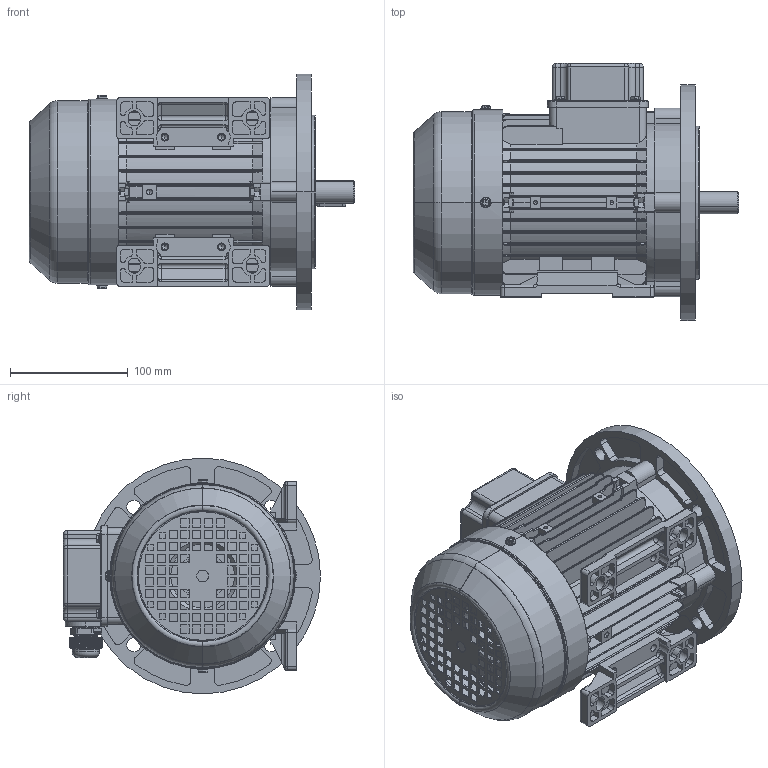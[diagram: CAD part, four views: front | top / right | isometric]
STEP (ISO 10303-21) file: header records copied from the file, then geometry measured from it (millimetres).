
FILE_DESCRIPTION (( 'STEP AP203' ), '1' );
FILE_NAME ('MSL80 assembly B35.STEP', '2017-11-26T09:41:45', ( 'user' ), ( 'china' ), 'SwSTEP 2.0', 'SolidWorks 2016', '' );
FILE_SCHEMA (( 'CONFIG_CONTROL_DESIGN' ));
Length unit declared in the file: millimetre
Products named in the file (14): MSL80-90堤盄碟_MSL80-90; M20 cable gland; MSL80 assembly B35; GB-T 5780-2000 M5_020; M80瑞欶_076; M80菁褐; GB-T 70.1-2000 M5_20; GB-T 29.2-1988 M4鞠褒坋趼湍菜_05; M80傷裔B5; MS80 綴裔瑞欶郪磁; M80-Shaft drive end; MSL80-儂褲; MSL80-90堤盄碟蚾饜; M80傷裔B3_Post
Assembly tree (26 placements, depth 3):
  MSL80 assembly B35
    MSL80-儂褲
    MS80 綴裔瑞欶郪磁
      M80傷裔B3_Post
      M80瑞欶_076
      GB-T 29.2-1988 M4鞠褒坋趼湍菜_05  x3
    MSL80-90堤盄碟蚾饜
      MSL80-90堤盄碟_MSL80-90
      GB-T 29.2-1988 M4鞠褒坋趼湍菜_05  x4
      M20 cable gland
    GB-T 70.1-2000 M5_20  x4
    GB-T 5780-2000 M5_020  x4
    M80-Shaft drive end
    M80菁褐  x2
    M80傷裔B5
Bounding box: 276 x 218 x 200 mm (x, y, z)
Volume: 882685.8 mm3; surface area: 587712.5 mm2
Topology: 24 solids, 24 shells, 3349 faces, 8606 edges, 5361 vertices
Faces by surface type: plane 1569, cylinder 1130, cone 223, bspline 220, torus 191, sphere 16
Entity records: 109661 total; most frequent: CARTESIAN_POINT 40983, ORIENTED_EDGE 14530, DIRECTION 13263, EDGE_CURVE 7265, AXIS2_PLACEMENT_3D 4640, VERTEX_POINT 4608, LINE 3983, VECTOR 3983
